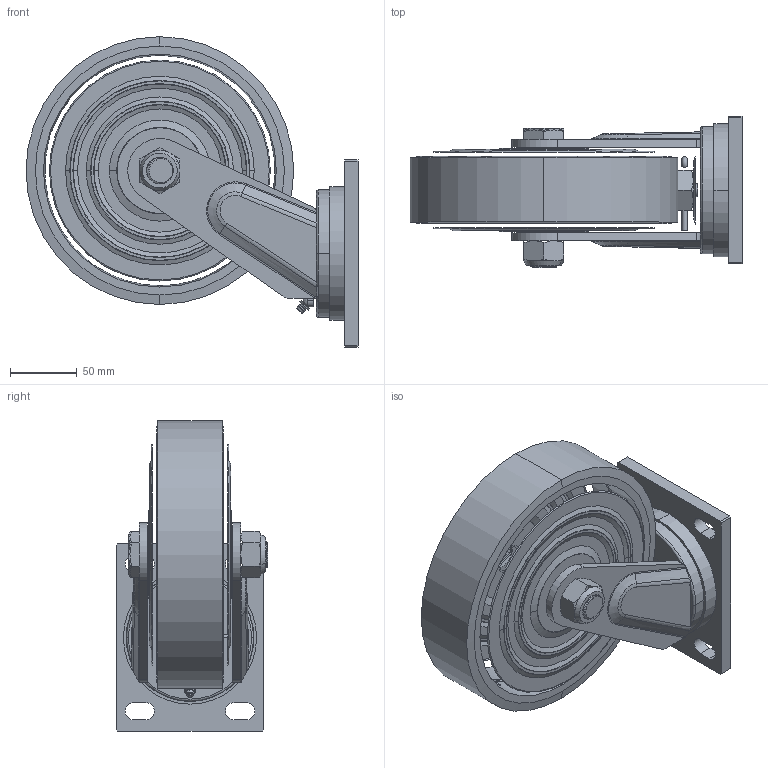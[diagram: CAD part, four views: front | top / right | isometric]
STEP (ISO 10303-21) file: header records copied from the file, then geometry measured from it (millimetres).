
FILE_DESCRIPTION((''),'2;1');
FILE_NAME('PRT0002','2025-04-01T19:13:59',('Administrator'),(''),'CREO PARAMETRIC BY PTC INC, 2024325','CREO PARAMETRIC BY PTC INC, 2024325','');
FILE_SCHEMA(('CONFIG_CONTROL_DESIGN','GEOMETRIC_VALIDATION_PROPERTIES_MIM'));
Length unit declared in the file: millimetre
Products named in the file (1): PRT0002
Bounding box: 248 x 113 x 232 mm (x, y, z)
Surface area: 209050.1 mm2 (no closed solid volume)
Topology: 0 solids, 28 shells, 232 faces, 769 edges, 569 vertices
Faces by surface type: plane 93, cone 48, bspline 36, torus 29, cylinder 26
Entity records: 13378 total; most frequent: CARTESIAN_POINT 5386, ORIENTED_EDGE 1204, DIRECTION 1188, EDGE_CURVE 769, VERTEX_POINT 569, AXIS2_PLACEMENT_3D 477, CIRCLE 281, EDGE_LOOP 273
